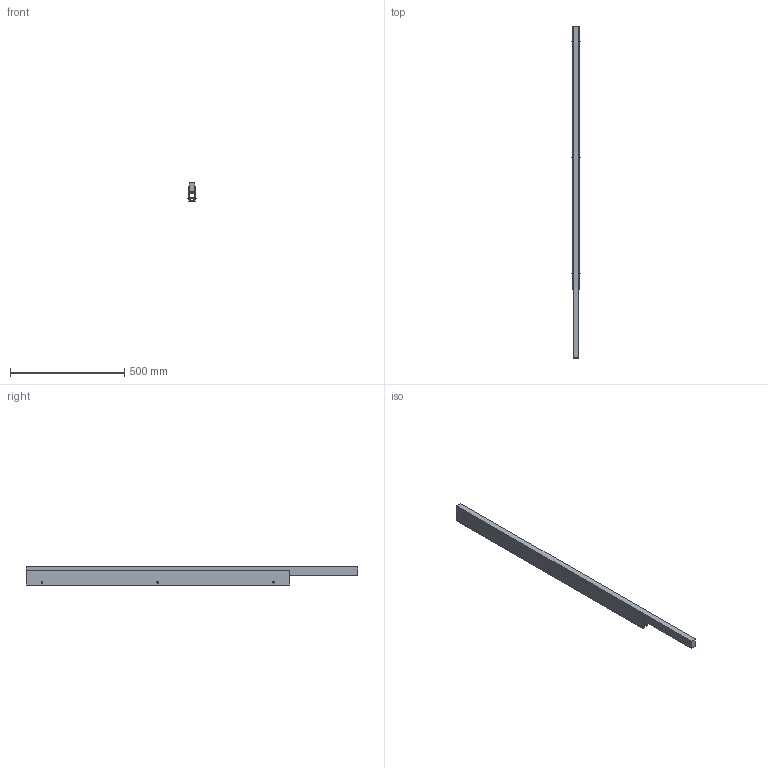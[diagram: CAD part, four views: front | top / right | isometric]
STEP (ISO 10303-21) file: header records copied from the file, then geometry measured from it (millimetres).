
FILE_DESCRIPTION(/* description */ ('Unknown'),/* implementation_level */ '2;1');
FILE_NAME(/* name */ '98837',/* time_stamp */ '2023-02-07T08:02:34-05:00',/* author */ ('Unknown'),/* organization */ ('Unknown'),/* preprocessor_version */ 'ST-DEVELOPER v18.1',/* originating_system */ 'Solid Edge',/* authorisation */ 'Unknown');
FILE_SCHEMA (('AUTOMOTIVE_DESIGN {1 0 10303 214 3 1 1}'));
Length unit declared in the file: millimetre
Products named in the file (5): CONTROCASSA 3D-ACCESSORIO; L-PR0160; LED-RIV001; MSL03327; LED-POL022
Assembly tree (11 placements, depth 2):
  CONTROCASSA 3D-ACCESSORIO
    L-PR0160
    LED-RIV001  x6
    MSL03327  x3
    LED-POL022
Bounding box: 35.51 x 1452 x 80 mm (x, y, z)
Volume: 1823853.7 mm3; surface area: 636638.1 mm2
Topology: 11 solids, 11 shells, 346 faces, 981 edges, 656 vertices
Faces by surface type: cylinder 189, plane 133, torus 18, sphere 6
Full cylindrical faces by diameter (mm): 3.8 x6, 4.1 x12, 5 x3, 7.8 x6
Entity records: 8345 total; most frequent: CARTESIAN_POINT 1865, ORIENTED_EDGE 1358, DIRECTION 1296, EDGE_CURVE 679, AXIS2_PLACEMENT_3D 477, VERTEX_POINT 462, LINE 342, VECTOR 342
